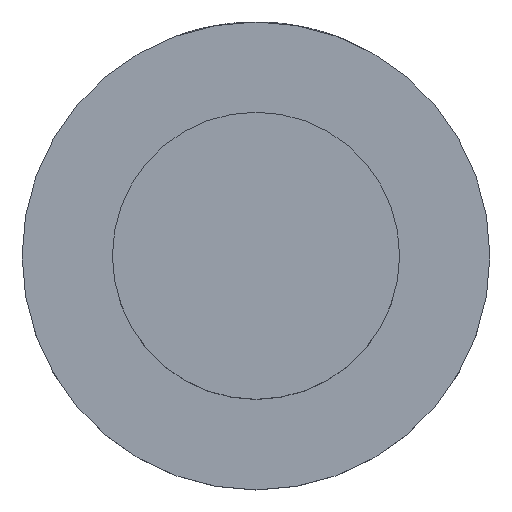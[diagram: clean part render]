
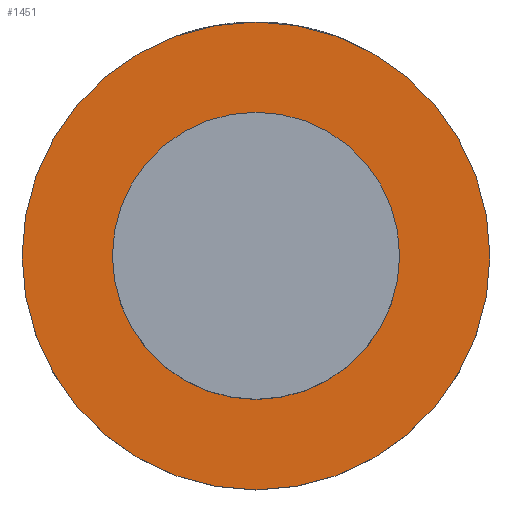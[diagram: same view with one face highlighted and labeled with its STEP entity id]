
A CAD part, top view. The second image highlights one B-rep face of the part: STEP entity #1451.
In plain terms, the highlighted planar face has unit normal (0, 0, 1).
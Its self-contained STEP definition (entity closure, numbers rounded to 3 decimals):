
#46=PLANE('',#1565);
#60=FACE_BOUND('',#312,.T.);
#99=CIRCLE('',#1554,11.);
#100=CIRCLE('',#1555,11.);
#105=CIRCLE('',#1563,6.75);
#106=CIRCLE('',#1564,6.75);
#225=FACE_OUTER_BOUND('',#311,.T.);
#311=EDGE_LOOP('',(#1247,#1248));
#312=EDGE_LOOP('',(#1249,#1250));
#671=VERTEX_POINT('',#3061);
#672=VERTEX_POINT('',#3063);
#678=VERTEX_POINT('',#3079);
#679=VERTEX_POINT('',#3080);
#873=EDGE_CURVE('',#671,#672,#99,.T.);
#874=EDGE_CURVE('',#672,#671,#100,.T.);
#880=EDGE_CURVE('',#678,#679,#105,.T.);
#881=EDGE_CURVE('',#679,#678,#106,.T.);
#1247=ORIENTED_EDGE('',*,*,#874,.F.);
#1248=ORIENTED_EDGE('',*,*,#873,.F.);
#1249=ORIENTED_EDGE('',*,*,#880,.T.);
#1250=ORIENTED_EDGE('',*,*,#881,.T.);
#1451=ADVANCED_FACE('',(#225,#60),#46,.T.);
#1554=AXIS2_PLACEMENT_3D('',#3064,#1823,#1824);
#1555=AXIS2_PLACEMENT_3D('',#3065,#1825,#1826);
#1563=AXIS2_PLACEMENT_3D('',#3081,#1842,#1843);
#1564=AXIS2_PLACEMENT_3D('',#3082,#1844,#1845);
#1565=AXIS2_PLACEMENT_3D('',#3084,#1847,#1848);
#1823=DIRECTION('center_axis',(0.,0.,-1.));
#1824=DIRECTION('ref_axis',(1.,0.,0.));
#1825=DIRECTION('center_axis',(0.,0.,-1.));
#1826=DIRECTION('ref_axis',(1.,0.,0.));
#1842=DIRECTION('center_axis',(0.,0.,-1.));
#1843=DIRECTION('ref_axis',(1.,0.,0.));
#1844=DIRECTION('center_axis',(0.,0.,-1.));
#1845=DIRECTION('ref_axis',(1.,0.,0.));
#1847=DIRECTION('center_axis',(0.,0.,1.));
#1848=DIRECTION('ref_axis',(1.,0.,0.));
#3061=CARTESIAN_POINT('',(0.,-11.,18.5));
#3063=CARTESIAN_POINT('',(0.,11.,18.5));
#3064=CARTESIAN_POINT('Origin',(0.,0.,18.5));
#3065=CARTESIAN_POINT('Origin',(0.,0.,18.5));
#3079=CARTESIAN_POINT('',(0.,6.75,18.5));
#3080=CARTESIAN_POINT('',(0.,-6.75,18.5));
#3081=CARTESIAN_POINT('Origin',(0.,0.,18.5));
#3082=CARTESIAN_POINT('Origin',(0.,0.,18.5));
#3084=CARTESIAN_POINT('Origin',(0.,11.,18.5));
